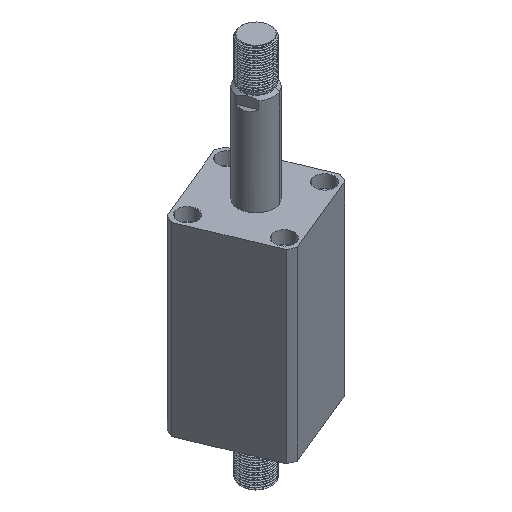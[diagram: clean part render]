
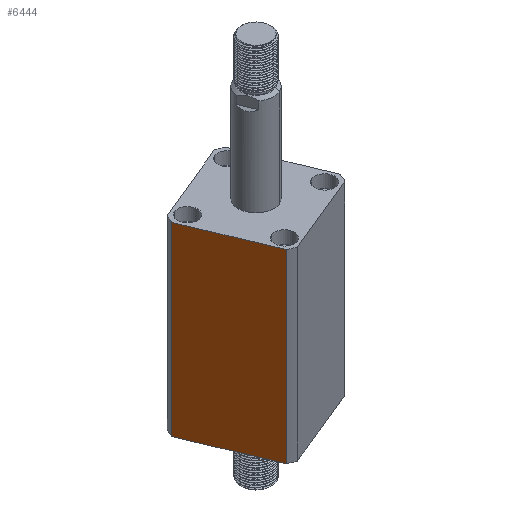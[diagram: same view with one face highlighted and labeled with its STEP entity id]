
A CAD part, isometric view. The second image highlights one B-rep face of the part: STEP entity #6444.
In plain terms, the highlighted planar face has unit normal (-0.924, -0.383, 0) as drawn and (0, -1, 0) by its records, which use the part's own axes.
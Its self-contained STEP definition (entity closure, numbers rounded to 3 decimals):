
#457 = DIRECTION ( 'NONE',  ( 1., 0., 0. ) ) ;
#1210 = CARTESIAN_POINT ( 'NONE',  ( -30.615, -35., 130. ) ) ;
#1307 = ORIENTED_EDGE ( 'NONE', *, *, #4410, .F. ) ;
#2345 = CARTESIAN_POINT ( 'NONE',  ( -35., -35., 130. ) ) ;
#2492 = VECTOR ( 'NONE', #12986, 1000. ) ;
#2533 = LINE ( 'NONE', #16317, #16509 ) ;
#3377 = ORIENTED_EDGE ( 'NONE', *, *, #8498, .F. ) ;
#3454 = CARTESIAN_POINT ( 'NONE',  ( -30.615, -35., 0. ) ) ;
#3505 = CARTESIAN_POINT ( 'NONE',  ( -30.615, -35., -170. ) ) ;
#3707 = EDGE_CURVE ( 'NONE', #11490, #16223, #12893, .T. ) ;
#4201 = ORIENTED_EDGE ( 'NONE', *, *, #3707, .F. ) ;
#4387 = ORIENTED_EDGE ( 'NONE', *, *, #5753, .T. ) ;
#4410 = EDGE_CURVE ( 'NONE', #6203, #16588, #5008, .T. ) ;
#4575 = CARTESIAN_POINT ( 'NONE',  ( 30.615, -35., 0. ) ) ;
#5008 = LINE ( 'NONE', #8885, #12226 ) ;
#5059 = DIRECTION ( 'NONE',  ( 0., 0., 1. ) ) ;
#5595 = DIRECTION ( 'NONE',  ( 1., 0., 0. ) ) ;
#5753 = EDGE_CURVE ( 'NONE', #11490, #16588, #6373, .T. ) ;
#6203 = VERTEX_POINT ( 'NONE', #11545 ) ;
#6373 = LINE ( 'NONE', #9984, #16329 ) ;
#6444 = ADVANCED_FACE ( 'NONE', ( #11688 ), #9131, .F. ) ;
#8498 = EDGE_CURVE ( 'NONE', #16223, #6203, #2533, .T. ) ;
#8885 = CARTESIAN_POINT ( 'NONE',  ( 30.615, -35., -170. ) ) ;
#9131 = PLANE ( 'NONE',  #13230 ) ;
#9984 = CARTESIAN_POINT ( 'NONE',  ( -35., -35., 0. ) ) ;
#11490 = VERTEX_POINT ( 'NONE', #3454 ) ;
#11545 = CARTESIAN_POINT ( 'NONE',  ( 30.615, -35., 130. ) ) ;
#11688 = FACE_OUTER_BOUND ( 'NONE', #12379, .T. ) ;
#12226 = VECTOR ( 'NONE', #16965, 1000. ) ;
#12379 = EDGE_LOOP ( 'NONE', ( #4201, #4387, #1307, #3377 ) ) ;
#12893 = LINE ( 'NONE', #3505, #2492 ) ;
#12986 = DIRECTION ( 'NONE',  ( 0., 0., 1. ) ) ;
#13198 = DIRECTION ( 'NONE',  ( 0., 1., 0. ) ) ;
#13230 = AXIS2_PLACEMENT_3D ( 'NONE', #2345, #13198, #5059 ) ;
#16223 = VERTEX_POINT ( 'NONE', #1210 ) ;
#16317 = CARTESIAN_POINT ( 'NONE',  ( -35., -35., 130. ) ) ;
#16329 = VECTOR ( 'NONE', #457, 1000. ) ;
#16509 = VECTOR ( 'NONE', #5595, 1000. ) ;
#16588 = VERTEX_POINT ( 'NONE', #4575 ) ;
#16965 = DIRECTION ( 'NONE',  ( 0., 0., -1. ) ) ;
